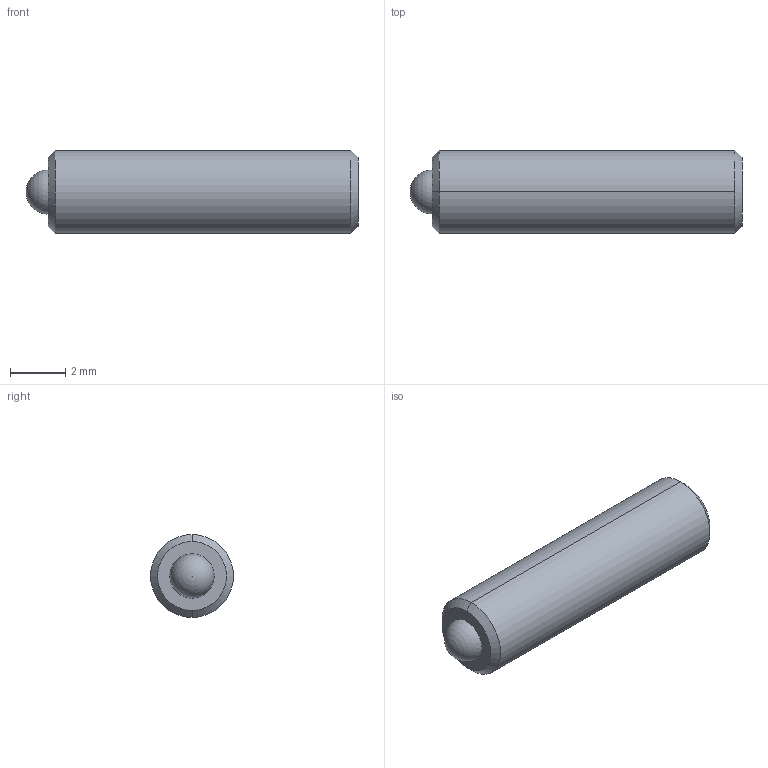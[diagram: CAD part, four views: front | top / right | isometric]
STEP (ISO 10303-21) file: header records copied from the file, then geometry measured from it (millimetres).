
FILE_DESCRIPTION (( 'STEP AP214' ), '1' );
FILE_NAME ('TS3-20-12.STEP', '2013-02-13T16:20:22', ( 'workpc' ), ( 'Microsoft' ), 'SwSTEP 2.0', 'SolidWorks 2013', '' );
FILE_SCHEMA (( 'AUTOMOTIVE_DESIGN' ));
Length unit declared in the file: millimetre
Products named in the file (1): TS3-20-12
Bounding box: 12 x 3 x 3 mm (x, y, z)
Volume: 75.2 mm3; surface area: 139.2 mm2
Topology: 2 solids, 2 shells, 20 faces, 45 edges, 29 vertices
Faces by surface type: plane 10, cylinder 4, cone 4, sphere 2
Entity records: 587 total; most frequent: DIRECTION 96, CARTESIAN_POINT 87, ORIENTED_EDGE 80, EDGE_CURVE 40, AXIS2_PLACEMENT_3D 35, VERTEX_POINT 26, VECTOR 26, LINE 26
